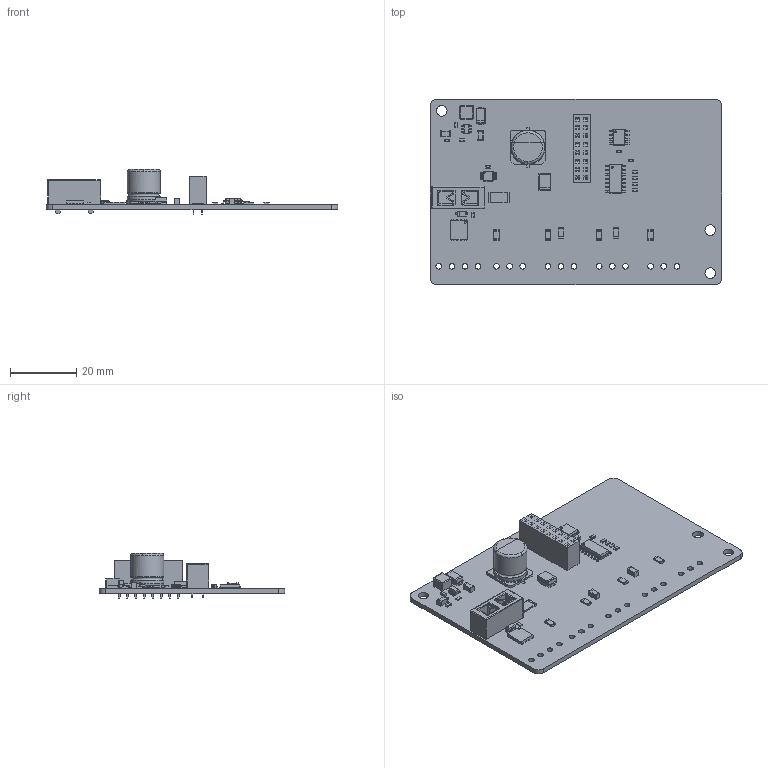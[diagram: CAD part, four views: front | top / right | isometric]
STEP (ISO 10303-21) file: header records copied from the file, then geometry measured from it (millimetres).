
FILE_DESCRIPTION(('KiCad electronic assembly'),'2;1');
FILE_NAME('AP1_Pixel.step','2026-10-06T22:29:05',('Pcbnew'),('Kicad'), 'Open CASCADE STEP processor 7.6','KiCad to STEP converter','Unknown' );
FILE_SCHEMA(('AUTOMOTIVE_DESIGN { 1 0 10303 214 1 1 1 1 }'));
Length unit declared in the file: millimetre
Products named in the file (19): AP1_Pixel 1; C_1206_3216Metric; Fuseholder_Blade_Mini_Keystone_3568; SOIC-8_3.9x4.9mm_P1.27mm; TDSON-8-1; R_0603_1608Metric; C_0603_1608Metric; SOT-23-6; Fuse_1206_3216Metric; D_SOD-123; VSSOP-10_3x3mm_P0.5mm; SOIC-14_3.9x8.7mm_P1.27mm; CP_Elec_10x10.5; L_Changjiang_FNR4030S; D_SMB; D_SMA; R_2512_6332Metric; PinSocket_2x08_P2.54mm_Vertical; AP1_Pixel_PCB
Assembly tree (33 placements, depth 2):
  AP1_Pixel 1
    C_1206_3216Metric  x4
    Fuseholder_Blade_Mini_Keystone_3568
    SOIC-8_3.9x4.9mm_P1.27mm
    TDSON-8-1
    R_0603_1608Metric  x7
    C_0603_1608Metric  x4
    SOT-23-6
    Fuse_1206_3216Metric  x4
    D_SOD-123
    VSSOP-10_3x3mm_P0.5mm
    SOIC-14_3.9x8.7mm_P1.27mm
    CP_Elec_10x10.5
    L_Changjiang_FNR4030S
    D_SMB
    D_SMA
    R_2512_6332Metric
    PinSocket_2x08_P2.54mm_Vertical
    AP1_Pixel_PCB
Bounding box: 88 x 56 x 13.6 mm (x, y, z)
Volume: 9938.8 mm3; surface area: 13736.7 mm2
Topology: 33 solids, 33 shells, 2145 faces, 5624 edges, 3597 vertices
Faces by surface type: plane 1477, cylinder 457, bspline 198, sphere 8, torus 4, revolution 1
Full cylindrical faces by diameter (mm): 0.25 x1, 0.5 x1, 0.6 x2, 1 x16, 1.7 x16, 1.78 x4, 3.2 x3, 10 x2
Entity records: 53197 total; most frequent: CARTESIAN_POINT 10329, ORIENTED_EDGE 9148, DIRECTION 8153, EDGE_CURVE 4572, LINE 3678, VECTOR 3678, VERTEX_POINT 2913, AXIS2_PLACEMENT_3D 2237
